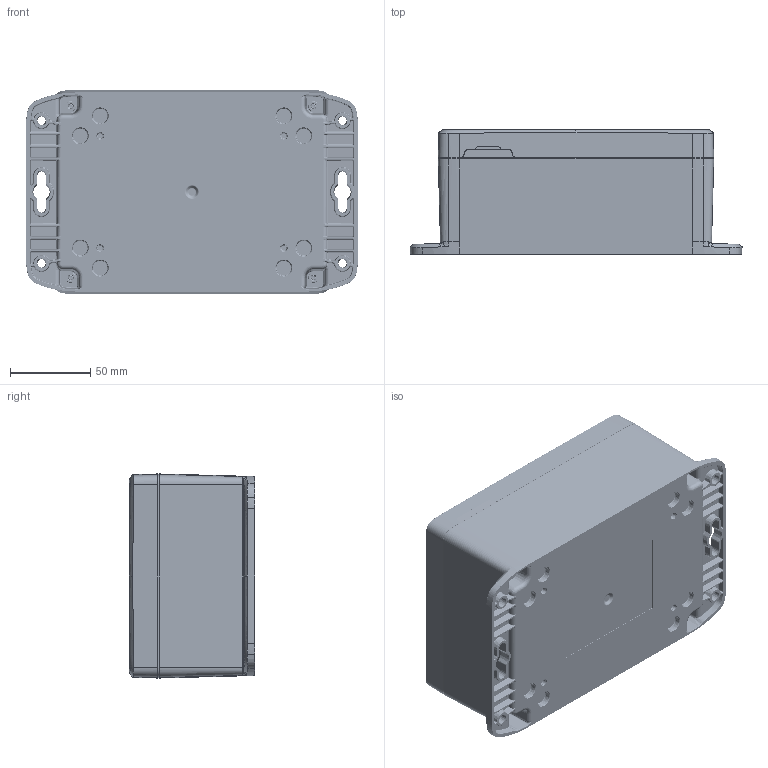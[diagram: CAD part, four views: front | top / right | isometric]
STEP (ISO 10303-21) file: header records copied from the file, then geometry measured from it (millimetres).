
FILE_DESCRIPTION (( 'STEP AP214' ), '1' );
FILE_NAME ('HN-57-01.STEP', '2026-02-24T13:05:19', ( '' ), ( '' ), 'SwSTEP 2.0', 'SolidWorks 2025', '' );
FILE_SCHEMA (( 'AUTOMOTIVE_DESIGN' ));
Length unit declared in the file: inch
Products named in the file (9): HN-57CG_HN-57CG-01; HN-57C_HN-57C-01; HN-57-01; LABEL-100; SCREWS-054_DEFAULT; INSERTS-3_INSERTS-3; HN-57BN_HN-57BFN-01; HN-57G_default; HN-57B_HN-57BF-01
Assembly tree (14 placements, depth 3):
  HN-57-01
    HN-57B_HN-57BF-01
      HN-57BN_HN-57BFN-01
      INSERTS-3_INSERTS-3  x4
      LABEL-100
    HN-57CG_HN-57CG-01
      HN-57C_HN-57C-01
      HN-57G_default
    SCREWS-054_DEFAULT  x4
Bounding box: 206.62 x 77.93 x 127 mm (x, y, z)
Volume: 326778.2 mm3; surface area: 217173.5 mm2
Topology: 11 solids, 13 shells, 5327 faces, 13013 edges, 7667 vertices
Faces by surface type: torus 1260, bspline 1202, cone 1178, cylinder 882, plane 735, sphere 70
Entity records: 185286 total; most frequent: CARTESIAN_POINT 82207, ORIENTED_EDGE 23410, DIRECTION 19821, EDGE_CURVE 11708, AXIS2_PLACEMENT_3D 8638, VERTEX_POINT 7001, EDGE_LOOP 4928, CIRCLE 4916
